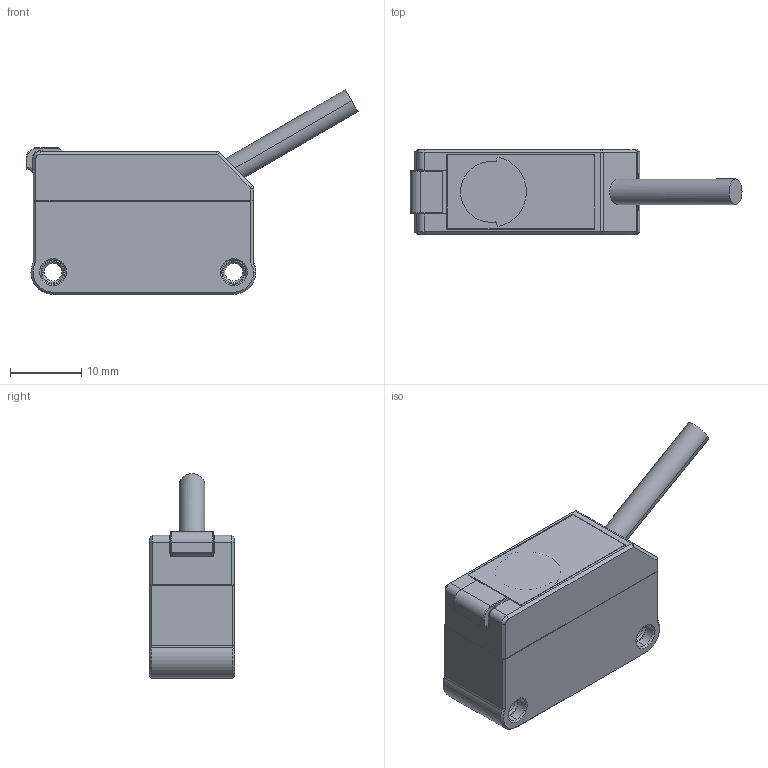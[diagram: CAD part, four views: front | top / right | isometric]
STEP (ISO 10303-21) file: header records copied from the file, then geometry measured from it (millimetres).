
FILE_DESCRIPTION((''),'2;1');
FILE_NAME('PE0003','2023-02-06T16:25:52',('wangyijun6'),(''),'CREO PARAMETRIC BY PTC INC, 2017260','CREO PARAMETRIC BY PTC INC, 2017260','');
FILE_SCHEMA(('CONFIG_CONTROL_DESIGN'));
Length unit declared in the file: millimetre
Products named in the file (1): PE0003
Bounding box: 46.67 x 12 x 28.75 mm (x, y, z)
Volume: 7172.2 mm3; surface area: 3980.1 mm2
Topology: 1 solids, 11 shells, 290 faces, 746 edges, 485 vertices
Faces by surface type: plane 124, cylinder 74, cone 68, bspline 14, torus 10
Entity records: 9593 total; most frequent: CARTESIAN_POINT 2632, ORIENTED_EDGE 1484, DIRECTION 1365, EDGE_CURVE 746, AXIS2_PLACEMENT_3D 491, VERTEX_POINT 485, VECTOR 383, LINE 383
